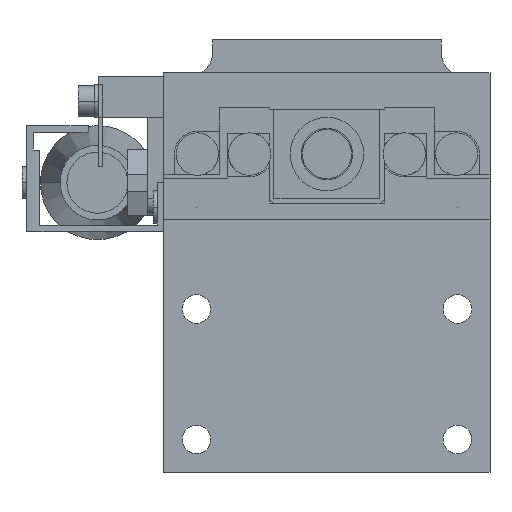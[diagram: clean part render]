
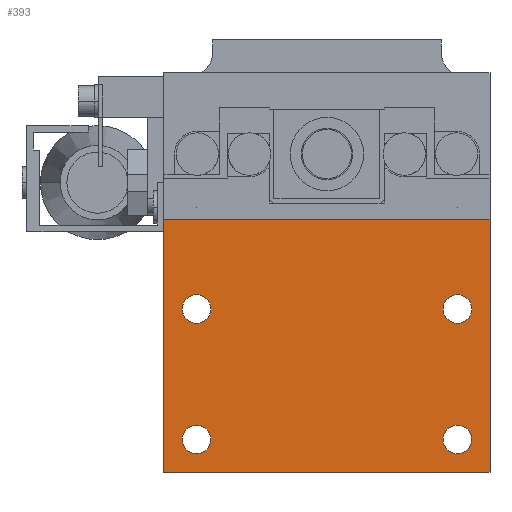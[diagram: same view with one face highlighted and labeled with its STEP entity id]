
A CAD part, front view. The second image highlights one B-rep face of the part: STEP entity #393.
In plain terms, the highlighted planar face has unit normal (0, -1, 0).
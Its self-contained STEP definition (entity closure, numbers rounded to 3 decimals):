
#393=ADVANCED_FACE('',(#1093,#1094,#1095,#1096,#1097),#1098,.F.);
#1093=FACE_BOUND('',#2505,.T.);
#1094=FACE_BOUND('',#2506,.T.);
#1095=FACE_BOUND('',#2507,.T.);
#1096=FACE_BOUND('',#2508,.T.);
#1097=FACE_OUTER_BOUND('',#2509,.T.);
#1098=PLANE('',#2510);
#2505=EDGE_LOOP('',(#4095,#4096));
#2506=EDGE_LOOP('',(#4097,#4098));
#2507=EDGE_LOOP('',(#4099,#4100));
#2508=EDGE_LOOP('',(#4101,#4102));
#2509=EDGE_LOOP('',(#4103,#4104,#4105,#4106));
#2510=AXIS2_PLACEMENT_3D('',#4107,#4108,#4109);
#4095=ORIENTED_EDGE('',*,*,#9213,.F.);
#4096=ORIENTED_EDGE('',*,*,#9131,.F.);
#4097=ORIENTED_EDGE('',*,*,#9214,.F.);
#4098=ORIENTED_EDGE('',*,*,#9127,.F.);
#4099=ORIENTED_EDGE('',*,*,#9212,.F.);
#4100=ORIENTED_EDGE('',*,*,#9135,.F.);
#4101=ORIENTED_EDGE('',*,*,#9206,.F.);
#4102=ORIENTED_EDGE('',*,*,#9139,.F.);
#4103=ORIENTED_EDGE('',*,*,#9215,.T.);
#4104=ORIENTED_EDGE('',*,*,#9198,.F.);
#4105=ORIENTED_EDGE('',*,*,#9183,.F.);
#4106=ORIENTED_EDGE('',*,*,#9200,.T.);
#4107=CARTESIAN_POINT('',(-20.0,0.0,-13.5));
#4108=DIRECTION('',(0.0,1.0,0.0));
#4109=DIRECTION('',(-1.0,0.0,0.0));
#9127=EDGE_CURVE('',#10789,#10785,#10791,.T.);
#9131=EDGE_CURVE('',#10797,#10793,#10799,.T.);
#9135=EDGE_CURVE('',#10805,#10801,#10807,.T.);
#9139=EDGE_CURVE('',#10813,#10809,#10815,.T.);
#9183=EDGE_CURVE('',#10891,#10893,#10894,.T.);
#9198=EDGE_CURVE('',#10893,#10912,#10916,.T.);
#9200=EDGE_CURVE('',#10891,#10917,#10919,.T.);
#9206=EDGE_CURVE('',#10809,#10813,#10926,.T.);
#9212=EDGE_CURVE('',#10801,#10805,#10934,.T.);
#9213=EDGE_CURVE('',#10793,#10797,#10935,.T.);
#9214=EDGE_CURVE('',#10785,#10789,#10936,.T.);
#9215=EDGE_CURVE('',#10917,#10912,#10937,.T.);
#10785=VERTEX_POINT('',#13503);
#10789=VERTEX_POINT('',#13508);
#10791=CIRCLE('',#13511,1.75);
#10793=VERTEX_POINT('',#13513);
#10797=VERTEX_POINT('',#13518);
#10799=CIRCLE('',#13521,1.75);
#10801=VERTEX_POINT('',#13523);
#10805=VERTEX_POINT('',#13528);
#10807=CIRCLE('',#13531,1.75);
#10809=VERTEX_POINT('',#13533);
#10813=VERTEX_POINT('',#13538);
#10815=CIRCLE('',#13541,1.75);
#10891=VERTEX_POINT('',#13642);
#10893=VERTEX_POINT('',#13645);
#10894=LINE('',#13646,#13647);
#10912=VERTEX_POINT('',#13673);
#10916=LINE('',#13679,#13680);
#10917=VERTEX_POINT('',#13681);
#10919=LINE('',#13684,#13685);
#10926=CIRCLE('',#13694,1.75);
#10934=CIRCLE('',#13705,1.75);
#10935=CIRCLE('',#13706,1.75);
#10936=CIRCLE('',#13707,1.75);
#10937=LINE('',#13708,#13709);
#13503=CARTESIAN_POINT('',(-16.0,0.0,-7.75));
#13508=CARTESIAN_POINT('',(-16.0,0.0,-11.25));
#13511=AXIS2_PLACEMENT_3D('',#17367,#17368,#17369);
#13513=CARTESIAN_POINT('',(16.0,0.0,8.25));
#13518=CARTESIAN_POINT('',(16.0,0.0,4.75));
#13521=AXIS2_PLACEMENT_3D('',#17375,#17376,#17377);
#13523=CARTESIAN_POINT('',(16.0,0.0,-7.75));
#13528=CARTESIAN_POINT('',(16.0,0.0,-11.25));
#13531=AXIS2_PLACEMENT_3D('',#17383,#17384,#17385);
#13533=CARTESIAN_POINT('',(-16.0,0.0,8.25));
#13538=CARTESIAN_POINT('',(-16.0,0.0,4.75));
#13541=AXIS2_PLACEMENT_3D('',#17391,#17392,#17393);
#13642=CARTESIAN_POINT('',(-20.0,0.0,-13.5));
#13645=CARTESIAN_POINT('',(-20.0,0.0,17.5));
#13646=CARTESIAN_POINT('',(-20.0,0.0,-13.5));
#13647=VECTOR('',#17471,1000.0);
#13673=CARTESIAN_POINT('',(20.0,0.0,17.5));
#13679=CARTESIAN_POINT('',(-20.0,0.0,17.5));
#13680=VECTOR('',#17494,1000.0);
#13681=CARTESIAN_POINT('',(20.0,0.0,-13.5));
#13684=CARTESIAN_POINT('',(-20.0,0.0,-13.5));
#13685=VECTOR('',#17496,1000.0);
#13694=AXIS2_PLACEMENT_3D('',#17508,#17509,#17510);
#13705=AXIS2_PLACEMENT_3D('',#17520,#17521,#17522);
#13706=AXIS2_PLACEMENT_3D('',#17523,#17524,#17525);
#13707=AXIS2_PLACEMENT_3D('',#17526,#17527,#17528);
#13708=CARTESIAN_POINT('',(20.0,0.0,-13.5));
#13709=VECTOR('',#17529,1000.0);
#17367=CARTESIAN_POINT('',(-16.0,0.0,-9.5));
#17368=DIRECTION('',(0.0,-1.0,0.0));
#17369=DIRECTION('',(0.0,0.0,1.0));
#17375=CARTESIAN_POINT('',(16.0,0.0,6.5));
#17376=DIRECTION('',(0.0,-1.0,0.0));
#17377=DIRECTION('',(0.0,0.0,1.0));
#17383=CARTESIAN_POINT('',(16.0,0.0,-9.5));
#17384=DIRECTION('',(0.0,-1.0,0.0));
#17385=DIRECTION('',(0.0,0.0,1.0));
#17391=CARTESIAN_POINT('',(-16.0,0.0,6.5));
#17392=DIRECTION('',(0.0,-1.0,0.0));
#17393=DIRECTION('',(0.0,0.0,1.0));
#17471=DIRECTION('',(0.0,0.0,1.0));
#17494=DIRECTION('',(1.0,0.0,0.0));
#17496=DIRECTION('',(1.0,0.0,0.0));
#17508=CARTESIAN_POINT('',(-16.0,0.0,6.5));
#17509=DIRECTION('',(0.0,-1.0,0.0));
#17510=DIRECTION('',(0.0,0.0,1.0));
#17520=CARTESIAN_POINT('',(16.0,0.0,-9.5));
#17521=DIRECTION('',(0.0,-1.0,0.0));
#17522=DIRECTION('',(0.0,0.0,1.0));
#17523=CARTESIAN_POINT('',(16.0,0.0,6.5));
#17524=DIRECTION('',(0.0,-1.0,0.0));
#17525=DIRECTION('',(0.0,0.0,1.0));
#17526=CARTESIAN_POINT('',(-16.0,0.0,-9.5));
#17527=DIRECTION('',(0.0,-1.0,0.0));
#17528=DIRECTION('',(0.0,0.0,1.0));
#17529=DIRECTION('',(0.0,0.0,1.0));
